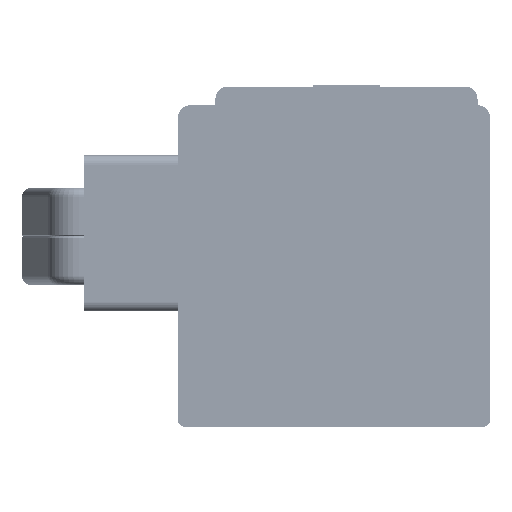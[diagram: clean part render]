
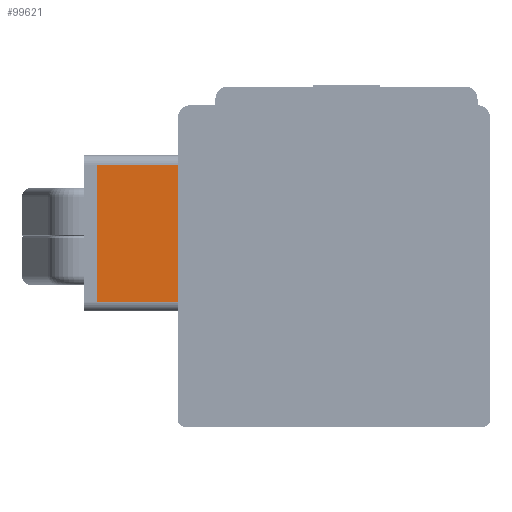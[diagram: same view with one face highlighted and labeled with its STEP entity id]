
A CAD part, front view. The second image highlights one B-rep face of the part: STEP entity #99621.
In plain terms, the highlighted planar face has unit normal (0, -1, 0).
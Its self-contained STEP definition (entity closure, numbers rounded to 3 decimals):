
#873 = DIRECTION ( 'NONE',  ( -1., 0., 0. ) ) ;
#905 = CARTESIAN_POINT ( 'NONE',  ( 37.159, 167.316, 103.23 ) ) ;
#9203 = DIRECTION ( 'NONE',  ( 0., 1., 0. ) ) ;
#27413 = CARTESIAN_POINT ( 'NONE',  ( 50.159, 167.316, 79.73 ) ) ;
#37699 = EDGE_CURVE ( 'NONE', #129083, #119617, #83009, .T. ) ;
#40959 = ORIENTED_EDGE ( 'NONE', *, *, #37699, .T. ) ;
#46986 = CARTESIAN_POINT ( 'NONE',  ( 50.159, 167.316, 103.23 ) ) ;
#60651 = VECTOR ( 'NONE', #71799, 1000. ) ;
#62180 = CARTESIAN_POINT ( 'NONE',  ( 37.159, 167.316, 101.73 ) ) ;
#64364 = VECTOR ( 'NONE', #873, 1000. ) ;
#71799 = DIRECTION ( 'NONE',  ( 0., 0., 1. ) ) ;
#76188 = ORIENTED_EDGE ( 'NONE', *, *, #130846, .T. ) ;
#80176 = VECTOR ( 'NONE', #107108, 1000. ) ;
#81935 = LINE ( 'NONE', #106017, #105963 ) ;
#83009 = LINE ( 'NONE', #46986, #60651 ) ;
#84578 = CARTESIAN_POINT ( 'NONE',  ( 37.159, 167.316, 79.73 ) ) ;
#86655 = FACE_OUTER_BOUND ( 'NONE', #93176, .T. ) ;
#87870 = VERTEX_POINT ( 'NONE', #62180 ) ;
#87947 = ORIENTED_EDGE ( 'NONE', *, *, #153487, .T. ) ;
#93176 = EDGE_LOOP ( 'NONE', ( #76188, #40959, #87947, #108833 ) ) ;
#99621 = ADVANCED_FACE ( 'NONE', ( #86655 ), #147584, .F. ) ;
#101855 = AXIS2_PLACEMENT_3D ( 'NONE', #905, #9203, #117439 ) ;
#105963 = VECTOR ( 'NONE', #131634, 1000. ) ;
#106017 = CARTESIAN_POINT ( 'NONE',  ( 37.159, 167.316, 79.73 ) ) ;
#107108 = DIRECTION ( 'NONE',  ( 0., 0., 1. ) ) ;
#108833 = ORIENTED_EDGE ( 'NONE', *, *, #141081, .F. ) ;
#109908 = LINE ( 'NONE', #133967, #64364 ) ;
#117439 = DIRECTION ( 'NONE',  ( -1., 0., 0. ) ) ;
#119617 = VERTEX_POINT ( 'NONE', #150401 ) ;
#119903 = VERTEX_POINT ( 'NONE', #84578 ) ;
#120714 = LINE ( 'NONE', #157544, #80176 ) ;
#129083 = VERTEX_POINT ( 'NONE', #27413 ) ;
#130846 = EDGE_CURVE ( 'NONE', #119903, #129083, #81935, .T. ) ;
#131634 = DIRECTION ( 'NONE',  ( 1., 0., 0. ) ) ;
#133967 = CARTESIAN_POINT ( 'NONE',  ( 37.159, 167.316, 101.73 ) ) ;
#141081 = EDGE_CURVE ( 'NONE', #119903, #87870, #120714, .T. ) ;
#147584 = PLANE ( 'NONE',  #101855 ) ;
#150401 = CARTESIAN_POINT ( 'NONE',  ( 50.159, 167.316, 101.73 ) ) ;
#153487 = EDGE_CURVE ( 'NONE', #119617, #87870, #109908, .T. ) ;
#157544 = CARTESIAN_POINT ( 'NONE',  ( 37.159, 167.316, 103.23 ) ) ;
